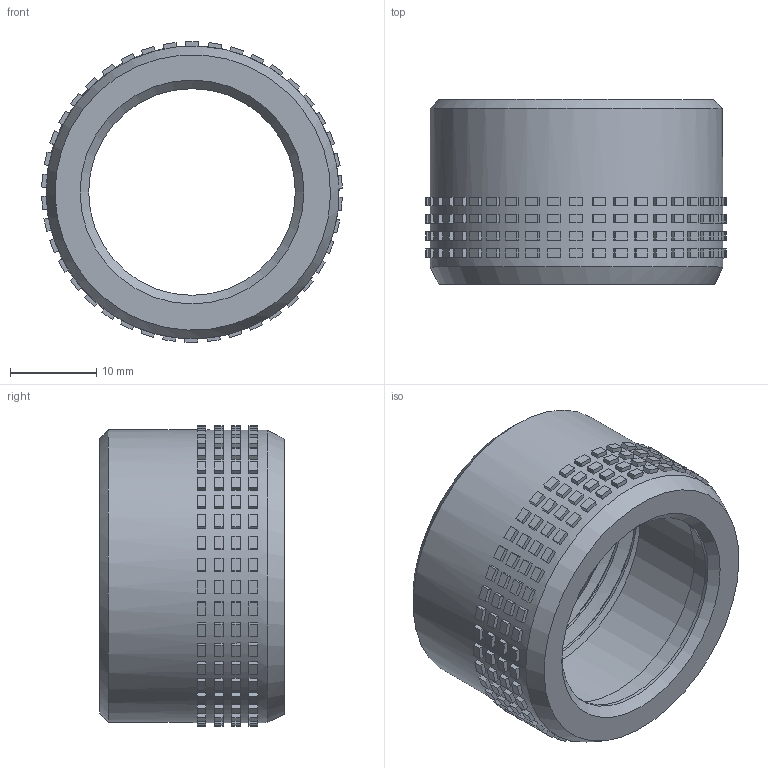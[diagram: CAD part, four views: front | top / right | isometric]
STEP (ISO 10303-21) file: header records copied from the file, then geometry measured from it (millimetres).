
FILE_DESCRIPTION(('HOOPS Exchange Step'),'2;1');
FILE_NAME('/private/var/mobile/Containers/Data/Application/CF5FE49D-83C9-4FF2-81F6-0AAB70978F0F/tmp/export/temp_export','2026-08-30T21:18:06+19:00',('mobile'),('Shapr3D Limited'),'HOOPS Exchange 2026.3','Shapr3D','Authorized');
FILE_SCHEMA( ('AP242_MANAGED_MODEL_BASED_3D_ENGINEERING_MIM_LF {1 0 10303 442 1 1 4}') );
Length unit declared in the file: millimetre
Products named in the file (3): Folder 11 (3); Flashlight cap.step; root
Assembly tree (2 placements, depth 3):
  root
    Flashlight cap.step
      Folder 11 (3)
Bounding box: 34.92 x 21.43 x 34.91 mm (x, y, z)
Volume: 6482.3 mm3; surface area: 5555.2 mm2
Topology: 1 solids, 1 shells, 860 faces, 2081 edges, 1389 vertices
Faces by surface type: plane 844, bspline 7, cylinder 7, cone 2
Full cylindrical faces by diameter (mm): 24 x1, 25.75 x1, 27 x1, 30.48 x2
Entity records: 33972 total; most frequent: CARTESIAN_POINT 14414, ORIENTED_EDGE 4162, DIRECTION 3440, EDGE_CURVE 2081, VECTOR 1688, LINE 1688, VERTEX_POINT 1389, EDGE_LOOP 1028
